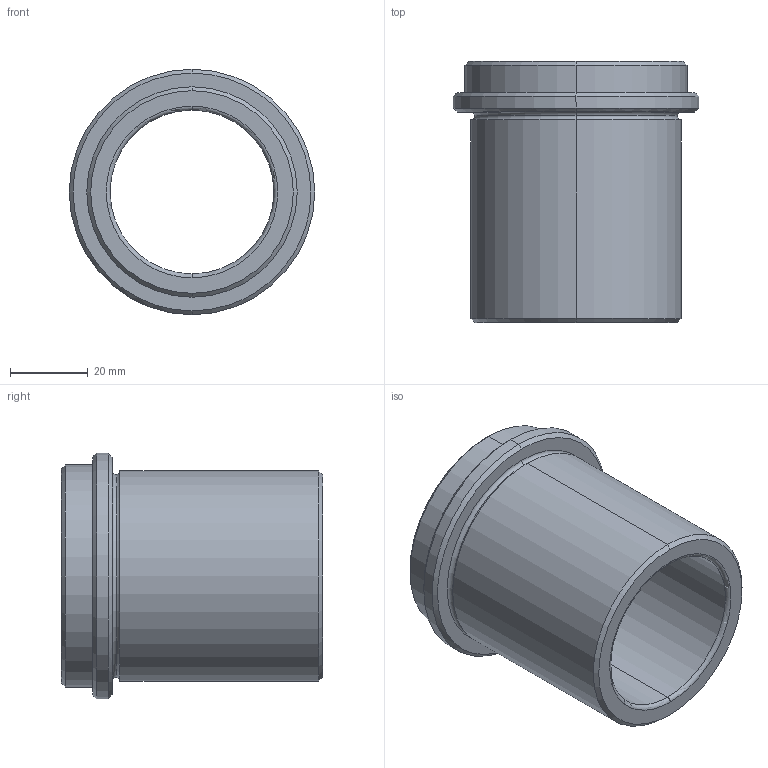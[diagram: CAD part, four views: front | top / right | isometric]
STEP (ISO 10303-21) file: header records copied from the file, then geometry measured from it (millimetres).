
FILE_DESCRIPTION(('CATIA V5 STEP Exchange'),'2;1');
FILE_NAME('C:\Users\Utente\Desktop\IO LAVORO\3D X SITO CF\X SITO\CF 439\CF 439 42x67.stp','2020-12-27T20:57:34+00:00',('none'),('none'),'CATIA Version 5 Release 20 GA (IN-10)','CATIA V5 STEP AP203','none');
FILE_SCHEMA(('CONFIG_CONTROL_DESIGN'));
Length unit declared in the file: millimetre
Products named in the file (1): CF 439 42x67
Bounding box: 63 x 67 x 63 mm (x, y, z)
Volume: 66160 mm3; surface area: 23514.5 mm2
Topology: 1 solids, 1 shells, 28 faces, 86 edges, 62 vertices
Faces by surface type: cone 8, cylinder 8, torus 8, plane 4
Entity records: 1104 total; most frequent: CARTESIAN_POINT 289, ORIENTED_EDGE 172, DIRECTION 134, AXIS2_PLACEMENT_3D 91, EDGE_CURVE 86, CIRCLE 62, VERTEX_POINT 62, EDGE_LOOP 32
